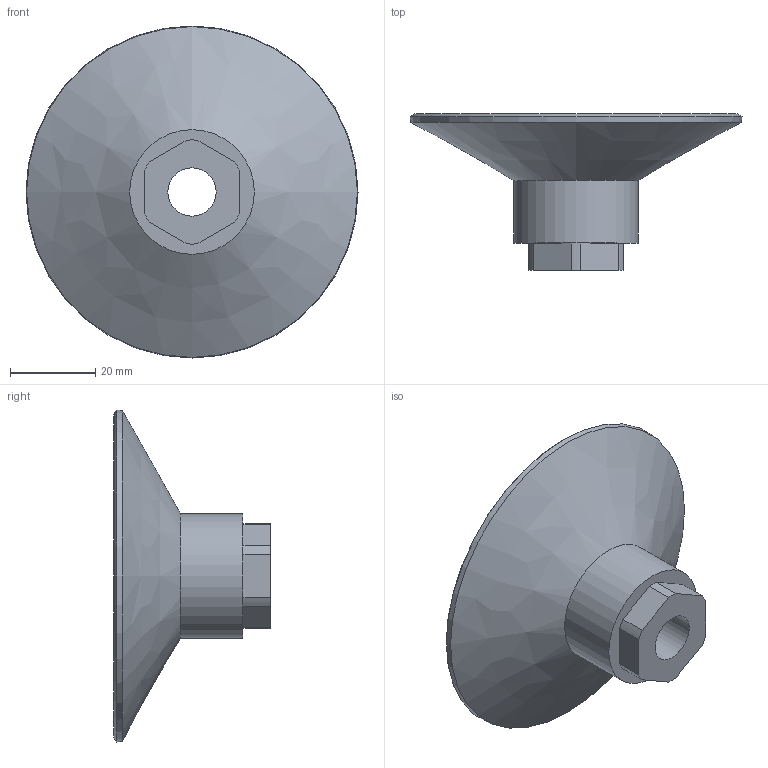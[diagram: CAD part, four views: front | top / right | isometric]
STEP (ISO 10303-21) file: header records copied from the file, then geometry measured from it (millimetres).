
FILE_DESCRIPTION (( 'STEP AP214' ), '1' );
FILE_NAME ('10F.078.103.STEP', '2025-08-06T13:53:05', ( '' ), ( '' ), 'SwSTEP 2.0', 'SolidWorks 2025', '' );
FILE_SCHEMA (( 'AUTOMOTIVE_DESIGN' ));
Length unit declared in the file: millimetre
Products named in the file (1): 10F.078.103
Bounding box: 77.8 x 36.7 x 77.8 mm (x, y, z)
Volume: 33212.5 mm3; surface area: 13714.5 mm2
Topology: 1 solids, 1 shells, 55 faces, 150 edges, 98 vertices
Faces by surface type: plane 28, cylinder 15, torus 7, cone 4, bspline 1
Full cylindrical faces by diameter (mm): 11.3 x1, 15 x1, 29.2 x1
Entity records: 2168 total; most frequent: CARTESIAN_POINT 844, ORIENTED_EDGE 278, DIRECTION 251, EDGE_CURVE 139, AXIS2_PLACEMENT_3D 100, VERTEX_POINT 96, EDGE_LOOP 67, FACE_OUTER_BOUND 60
